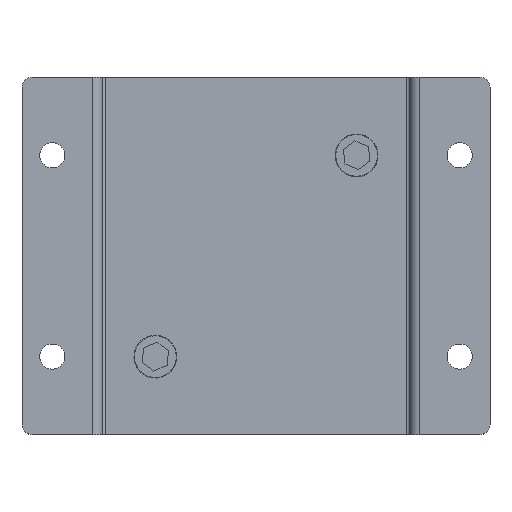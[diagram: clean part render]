
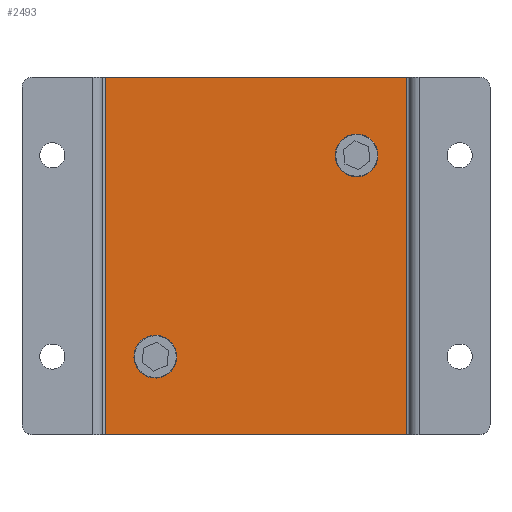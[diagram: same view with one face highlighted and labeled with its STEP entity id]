
A CAD part, top view. The second image highlights one B-rep face of the part: STEP entity #2493.
In plain terms, the highlighted planar face has unit normal (0, 0, 1) as drawn and (0, 0, -1) by its records, which use the part's own axes.
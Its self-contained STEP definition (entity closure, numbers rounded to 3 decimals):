
#24 = VERTEX_POINT ( 'NONE', #12841 ) ;
#483 = VERTEX_POINT ( 'NONE', #27051 ) ;
#1820 = ORIENTED_EDGE ( 'NONE', *, *, #23009, .F. ) ;
#1897 = CARTESIAN_POINT ( 'NONE',  ( 30., -35.5, -1.5 ) ) ;
#2147 = VERTEX_POINT ( 'NONE', #10877 ) ;
#2493 = ADVANCED_FACE ( 'NONE', ( #11143, #22596, #7105 ), #19786, .F. ) ;
#2669 = VECTOR ( 'NONE', #4166, 1000. ) ;
#2777 = VECTOR ( 'NONE', #15448, 1000. ) ;
#3128 = CARTESIAN_POINT ( 'NONE',  ( -22.75, 20., -1.5 ) ) ;
#3794 = CARTESIAN_POINT ( 'NONE',  ( -30., -40., -1.5 ) ) ;
#4166 = DIRECTION ( 'NONE',  ( 0., -1., 0. ) ) ;
#5135 = EDGE_CURVE ( 'NONE', #2147, #483, #18608, .T. ) ;
#5177 = VERTEX_POINT ( 'NONE', #1897 ) ;
#5343 = EDGE_CURVE ( 'NONE', #483, #2147, #19521, .T. ) ;
#5380 = ORIENTED_EDGE ( 'NONE', *, *, #36196, .F. ) ;
#5431 = ORIENTED_EDGE ( 'NONE', *, *, #20608, .T. ) ;
#7105 = FACE_OUTER_BOUND ( 'NONE', #7355, .T. ) ;
#7355 = EDGE_LOOP ( 'NONE', ( #5380, #5431, #1820, #18797 ) ) ;
#7907 = EDGE_CURVE ( 'NONE', #36720, #24, #29797, .T. ) ;
#7974 = CIRCLE ( 'NONE', #33123, 2.75 ) ;
#8346 = CARTESIAN_POINT ( 'NONE',  ( -30., 40., -1.5 ) ) ;
#8514 = VECTOR ( 'NONE', #31976, 1000. ) ;
#9934 = AXIS2_PLACEMENT_3D ( 'NONE', #28295, #11240, #34101 ) ;
#10507 = LINE ( 'NONE', #31614, #8514 ) ;
#10877 = CARTESIAN_POINT ( 'NONE',  ( 17.25, -20., -1.5 ) ) ;
#11143 = FACE_BOUND ( 'NONE', #23109, .T. ) ;
#11240 = DIRECTION ( 'NONE',  ( 0., 0., 1. ) ) ;
#11970 = CARTESIAN_POINT ( 'NONE',  ( -20., 20., -1.5 ) ) ;
#12251 = VECTOR ( 'NONE', #36733, 1000. ) ;
#12841 = CARTESIAN_POINT ( 'NONE',  ( -17.25, 20., -1.5 ) ) ;
#15448 = DIRECTION ( 'NONE',  ( 1., 0., 0. ) ) ;
#15940 = EDGE_LOOP ( 'NONE', ( #32839, #29155 ) ) ;
#16141 = CARTESIAN_POINT ( 'NONE',  ( 20., -20., -1.5 ) ) ;
#16889 = DIRECTION ( 'NONE',  ( 0., 0., 1. ) ) ;
#17059 = CARTESIAN_POINT ( 'NONE',  ( -20., 20., -1.5 ) ) ;
#18082 = CARTESIAN_POINT ( 'NONE',  ( -30., 35.5, -1.5 ) ) ;
#18415 = LINE ( 'NONE', #3794, #2669 ) ;
#18608 = CIRCLE ( 'NONE', #36552, 2.75 ) ;
#18797 = ORIENTED_EDGE ( 'NONE', *, *, #30600, .T. ) ;
#19521 = CIRCLE ( 'NONE', #9934, 2.75 ) ;
#19702 = CARTESIAN_POINT ( 'NONE',  ( -30., 35.5, -1.5 ) ) ;
#19786 = PLANE ( 'NONE',  #22026 ) ;
#20608 = EDGE_CURVE ( 'NONE', #5177, #36396, #10507, .T. ) ;
#20903 = LINE ( 'NONE', #18082, #2777 ) ;
#21179 = ORIENTED_EDGE ( 'NONE', *, *, #21944, .T. ) ;
#21755 = VERTEX_POINT ( 'NONE', #30021 ) ;
#21944 = EDGE_CURVE ( 'NONE', #24, #36720, #7974, .T. ) ;
#22026 = AXIS2_PLACEMENT_3D ( 'NONE', #8346, #34005, #24160 ) ;
#22596 = FACE_BOUND ( 'NONE', #15940, .T. ) ;
#23009 = EDGE_CURVE ( 'NONE', #26717, #36396, #18415, .T. ) ;
#23109 = EDGE_LOOP ( 'NONE', ( #21179, #24306 ) ) ;
#24160 = DIRECTION ( 'NONE',  ( 1., 0., 0. ) ) ;
#24200 = DIRECTION ( 'NONE',  ( 1., 0., 0. ) ) ;
#24306 = ORIENTED_EDGE ( 'NONE', *, *, #7907, .T. ) ;
#25305 = LINE ( 'NONE', #30577, #12251 ) ;
#26208 = DIRECTION ( 'NONE',  ( 1., 0., 0. ) ) ;
#26717 = VERTEX_POINT ( 'NONE', #19702 ) ;
#27051 = CARTESIAN_POINT ( 'NONE',  ( 22.75, -20., -1.5 ) ) ;
#28295 = CARTESIAN_POINT ( 'NONE',  ( 20., -20., -1.5 ) ) ;
#28487 = DIRECTION ( 'NONE',  ( 1., 0., 0. ) ) ;
#28834 = DIRECTION ( 'NONE',  ( 0., 0., 1. ) ) ;
#29155 = ORIENTED_EDGE ( 'NONE', *, *, #5135, .T. ) ;
#29594 = CARTESIAN_POINT ( 'NONE',  ( -30., -35.5, -1.5 ) ) ;
#29797 = CIRCLE ( 'NONE', #34532, 2.75 ) ;
#30021 = CARTESIAN_POINT ( 'NONE',  ( 30., 35.5, -1.5 ) ) ;
#30577 = CARTESIAN_POINT ( 'NONE',  ( 30., -40., -1.5 ) ) ;
#30600 = EDGE_CURVE ( 'NONE', #26717, #21755, #20903, .T. ) ;
#31614 = CARTESIAN_POINT ( 'NONE',  ( -30., -35.5, -1.5 ) ) ;
#31976 = DIRECTION ( 'NONE',  ( -1., 0., 0. ) ) ;
#32839 = ORIENTED_EDGE ( 'NONE', *, *, #5343, .T. ) ;
#33123 = AXIS2_PLACEMENT_3D ( 'NONE', #17059, #16889, #28487 ) ;
#33174 = DIRECTION ( 'NONE',  ( 0., 0., 1. ) ) ;
#34005 = DIRECTION ( 'NONE',  ( 0., 0., 1. ) ) ;
#34101 = DIRECTION ( 'NONE',  ( 1., 0., 0. ) ) ;
#34532 = AXIS2_PLACEMENT_3D ( 'NONE', #11970, #28834, #26208 ) ;
#36196 = EDGE_CURVE ( 'NONE', #5177, #21755, #25305, .T. ) ;
#36396 = VERTEX_POINT ( 'NONE', #29594 ) ;
#36552 = AXIS2_PLACEMENT_3D ( 'NONE', #16141, #33174, #24200 ) ;
#36720 = VERTEX_POINT ( 'NONE', #3128 ) ;
#36733 = DIRECTION ( 'NONE',  ( 0., 1., 0. ) ) ;
